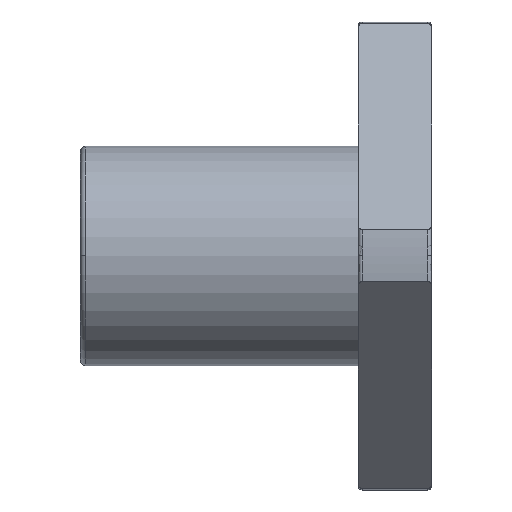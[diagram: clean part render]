
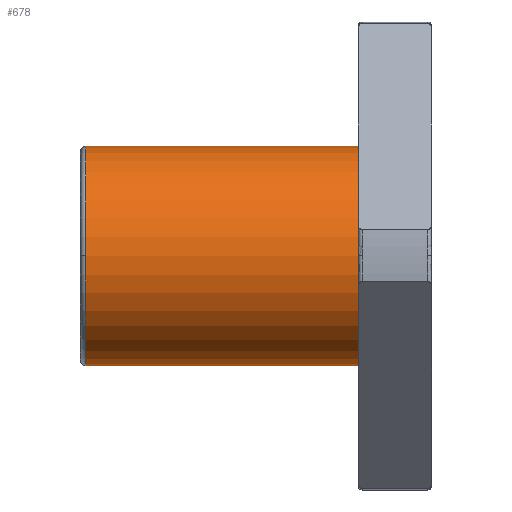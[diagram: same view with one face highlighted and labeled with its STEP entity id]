
A CAD part, top view. The second image highlights one B-rep face of the part: STEP entity #678.
In plain terms, the highlighted cylindrical face has radius 7.5 mm (diameter 15 mm), a partial arc.
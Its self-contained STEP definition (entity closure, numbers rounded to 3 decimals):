
#663 = PLANE('',#664);
#664 = AXIS2_PLACEMENT_3D('',#665,#666,#667);
#665 = CARTESIAN_POINT('',(-5.,11.625,0.));
#666 = DIRECTION('',(-1.,0.,0.));
#667 = DIRECTION('',(0.,-1.,0.));
#678 = ADVANCED_FACE('',(#679),#693,.T.);
#679 = FACE_BOUND('',#680,.T.);
#680 = EDGE_LOOP('',(#681,#716,#745,#774,#797));
#681 = ORIENTED_EDGE('',*,*,#682,.F.);
#682 = EDGE_CURVE('',#683,#685,#687,.T.);
#683 = VERTEX_POINT('',#684);
#684 = CARTESIAN_POINT('',(-23.65,7.5,0.));
#685 = VERTEX_POINT('',#686);
#686 = CARTESIAN_POINT('',(-5.,7.5,0.));
#687 = SURFACE_CURVE('',#688,(#692,#704),.PCURVE_S1.);
#688 = LINE('',#689,#690);
#689 = CARTESIAN_POINT('',(-14.325,7.5,0.));
#690 = VECTOR('',#691,1.);
#691 = DIRECTION('',(1.,0.,0.));
#692 = PCURVE('',#693,#698);
#693 = CYLINDRICAL_SURFACE('',#694,7.5);
#694 = AXIS2_PLACEMENT_3D('',#695,#696,#697);
#695 = CARTESIAN_POINT('',(-14.325,0.,0.));
#696 = DIRECTION('',(1.,0.,0.));
#697 = DIRECTION('',(-0.,1.,0.));
#698 = DEFINITIONAL_REPRESENTATION('',(#699),#703);
#699 = LINE('',#700,#701);
#700 = CARTESIAN_POINT('',(0.,0.));
#701 = VECTOR('',#702,1.);
#702 = DIRECTION('',(0.,1.));
#703 = ( GEOMETRIC_REPRESENTATION_CONTEXT(2) 
PARAMETRIC_REPRESENTATION_CONTEXT() REPRESENTATION_CONTEXT('2D SPACE',''
  ) );
#704 = PCURVE('',#705,#710);
#705 = CYLINDRICAL_SURFACE('',#706,7.5);
#706 = AXIS2_PLACEMENT_3D('',#707,#708,#709);
#707 = CARTESIAN_POINT('',(-14.325,0.,0.));
#708 = DIRECTION('',(1.,0.,0.));
#709 = DIRECTION('',(-0.,1.,0.));
#710 = DEFINITIONAL_REPRESENTATION('',(#711),#715);
#711 = LINE('',#712,#713);
#712 = CARTESIAN_POINT('',(6.283,0.));
#713 = VECTOR('',#714,1.);
#714 = DIRECTION('',(0.,1.));
#715 = ( GEOMETRIC_REPRESENTATION_CONTEXT(2) 
PARAMETRIC_REPRESENTATION_CONTEXT() REPRESENTATION_CONTEXT('2D SPACE',''
  ) );
#716 = ORIENTED_EDGE('',*,*,#717,.T.);
#717 = EDGE_CURVE('',#683,#718,#720,.T.);
#718 = VERTEX_POINT('',#719);
#719 = CARTESIAN_POINT('',(-23.65,0.,7.5));
#720 = SURFACE_CURVE('',#721,(#726,#733),.PCURVE_S1.);
#721 = CIRCLE('',#722,7.5);
#722 = AXIS2_PLACEMENT_3D('',#723,#724,#725);
#723 = CARTESIAN_POINT('',(-23.65,0.,0.));
#724 = DIRECTION('',(1.,0.,0.));
#725 = DIRECTION('',(-0.,1.,0.));
#726 = PCURVE('',#693,#727);
#727 = DEFINITIONAL_REPRESENTATION('',(#728),#732);
#728 = LINE('',#729,#730);
#729 = CARTESIAN_POINT('',(0.,-9.325));
#730 = VECTOR('',#731,1.);
#731 = DIRECTION('',(1.,0.));
#732 = ( GEOMETRIC_REPRESENTATION_CONTEXT(2) 
PARAMETRIC_REPRESENTATION_CONTEXT() REPRESENTATION_CONTEXT('2D SPACE',''
  ) );
#733 = PCURVE('',#734,#739);
#734 = TOROIDAL_SURFACE('',#735,7.15,0.35);
#735 = AXIS2_PLACEMENT_3D('',#736,#737,#738);
#736 = CARTESIAN_POINT('',(-23.65,0.,0.));
#737 = DIRECTION('',(1.,0.,0.));
#738 = DIRECTION('',(0.,0.,-1.));
#739 = DEFINITIONAL_REPRESENTATION('',(#740),#744);
#740 = LINE('',#741,#742);
#741 = CARTESIAN_POINT('',(1.571,6.283));
#742 = VECTOR('',#743,1.);
#743 = DIRECTION('',(1.,0.));
#744 = ( GEOMETRIC_REPRESENTATION_CONTEXT(2) 
PARAMETRIC_REPRESENTATION_CONTEXT() REPRESENTATION_CONTEXT('2D SPACE',''
  ) );
#745 = ORIENTED_EDGE('',*,*,#746,.T.);
#746 = EDGE_CURVE('',#718,#747,#749,.T.);
#747 = VERTEX_POINT('',#748);
#748 = CARTESIAN_POINT('',(-23.65,-7.5,0.));
#749 = SURFACE_CURVE('',#750,(#755,#762),.PCURVE_S1.);
#750 = CIRCLE('',#751,7.5);
#751 = AXIS2_PLACEMENT_3D('',#752,#753,#754);
#752 = CARTESIAN_POINT('',(-23.65,0.,0.));
#753 = DIRECTION('',(1.,0.,0.));
#754 = DIRECTION('',(-0.,1.,0.));
#755 = PCURVE('',#693,#756);
#756 = DEFINITIONAL_REPRESENTATION('',(#757),#761);
#757 = LINE('',#758,#759);
#758 = CARTESIAN_POINT('',(0.,-9.325));
#759 = VECTOR('',#760,1.);
#760 = DIRECTION('',(1.,0.));
#761 = ( GEOMETRIC_REPRESENTATION_CONTEXT(2) 
PARAMETRIC_REPRESENTATION_CONTEXT() REPRESENTATION_CONTEXT('2D SPACE',''
  ) );
#762 = PCURVE('',#763,#768);
#763 = TOROIDAL_SURFACE('',#764,7.15,0.35);
#764 = AXIS2_PLACEMENT_3D('',#765,#766,#767);
#765 = CARTESIAN_POINT('',(-23.65,0.,0.));
#766 = DIRECTION('',(1.,0.,0.));
#767 = DIRECTION('',(0.,0.,-1.));
#768 = DEFINITIONAL_REPRESENTATION('',(#769),#773);
#769 = LINE('',#770,#771);
#770 = CARTESIAN_POINT('',(1.571,6.283));
#771 = VECTOR('',#772,1.);
#772 = DIRECTION('',(1.,0.));
#773 = ( GEOMETRIC_REPRESENTATION_CONTEXT(2) 
PARAMETRIC_REPRESENTATION_CONTEXT() REPRESENTATION_CONTEXT('2D SPACE',''
  ) );
#774 = ORIENTED_EDGE('',*,*,#775,.F.);
#775 = EDGE_CURVE('',#776,#747,#778,.T.);
#776 = VERTEX_POINT('',#777);
#777 = CARTESIAN_POINT('',(-5.,-7.5,0.));
#778 = SURFACE_CURVE('',#779,(#783,#790),.PCURVE_S1.);
#779 = LINE('',#780,#781);
#780 = CARTESIAN_POINT('',(-14.325,-7.5,0.));
#781 = VECTOR('',#782,1.);
#782 = DIRECTION('',(-1.,-0.,-0.));
#783 = PCURVE('',#693,#784);
#784 = DEFINITIONAL_REPRESENTATION('',(#785),#789);
#785 = LINE('',#786,#787);
#786 = CARTESIAN_POINT('',(3.142,0.));
#787 = VECTOR('',#788,1.);
#788 = DIRECTION('',(0.,-1.));
#789 = ( GEOMETRIC_REPRESENTATION_CONTEXT(2) 
PARAMETRIC_REPRESENTATION_CONTEXT() REPRESENTATION_CONTEXT('2D SPACE',''
  ) );
#790 = PCURVE('',#705,#791);
#791 = DEFINITIONAL_REPRESENTATION('',(#792),#796);
#792 = LINE('',#793,#794);
#793 = CARTESIAN_POINT('',(3.142,0.));
#794 = VECTOR('',#795,1.);
#795 = DIRECTION('',(0.,-1.));
#796 = ( GEOMETRIC_REPRESENTATION_CONTEXT(2) 
PARAMETRIC_REPRESENTATION_CONTEXT() REPRESENTATION_CONTEXT('2D SPACE',''
  ) );
#797 = ORIENTED_EDGE('',*,*,#798,.F.);
#798 = EDGE_CURVE('',#685,#776,#799,.T.);
#799 = SURFACE_CURVE('',#800,(#805,#812),.PCURVE_S1.);
#800 = CIRCLE('',#801,7.5);
#801 = AXIS2_PLACEMENT_3D('',#802,#803,#804);
#802 = CARTESIAN_POINT('',(-5.,0.,0.));
#803 = DIRECTION('',(1.,0.,0.));
#804 = DIRECTION('',(-0.,1.,0.));
#805 = PCURVE('',#693,#806);
#806 = DEFINITIONAL_REPRESENTATION('',(#807),#811);
#807 = LINE('',#808,#809);
#808 = CARTESIAN_POINT('',(0.,9.325));
#809 = VECTOR('',#810,1.);
#810 = DIRECTION('',(1.,0.));
#811 = ( GEOMETRIC_REPRESENTATION_CONTEXT(2) 
PARAMETRIC_REPRESENTATION_CONTEXT() REPRESENTATION_CONTEXT('2D SPACE',''
  ) );
#812 = PCURVE('',#663,#813);
#813 = DEFINITIONAL_REPRESENTATION('',(#814),#822);
#814 = ( BOUNDED_CURVE() B_SPLINE_CURVE(2,(#815,#816,#817,#818,#819,#820
,#821),.UNSPECIFIED.,.T.,.F.) B_SPLINE_CURVE_WITH_KNOTS((1,2,2,2,2,1),(
    -2.094,0.,2.094,4.189,6.283,
8.378),.UNSPECIFIED.) CURVE() GEOMETRIC_REPRESENTATION_ITEM() 
RATIONAL_B_SPLINE_CURVE((1.,0.5,1.,0.5,1.,0.5,1.)) REPRESENTATION_ITEM(
  '') );
#815 = CARTESIAN_POINT('',(4.125,0.));
#816 = CARTESIAN_POINT('',(4.125,12.99));
#817 = CARTESIAN_POINT('',(15.375,6.495));
#818 = CARTESIAN_POINT('',(26.625,0.));
#819 = CARTESIAN_POINT('',(15.375,-6.495));
#820 = CARTESIAN_POINT('',(4.125,-12.99));
#821 = CARTESIAN_POINT('',(4.125,0.));
#822 = ( GEOMETRIC_REPRESENTATION_CONTEXT(2) 
PARAMETRIC_REPRESENTATION_CONTEXT() REPRESENTATION_CONTEXT('2D SPACE',''
  ) );
